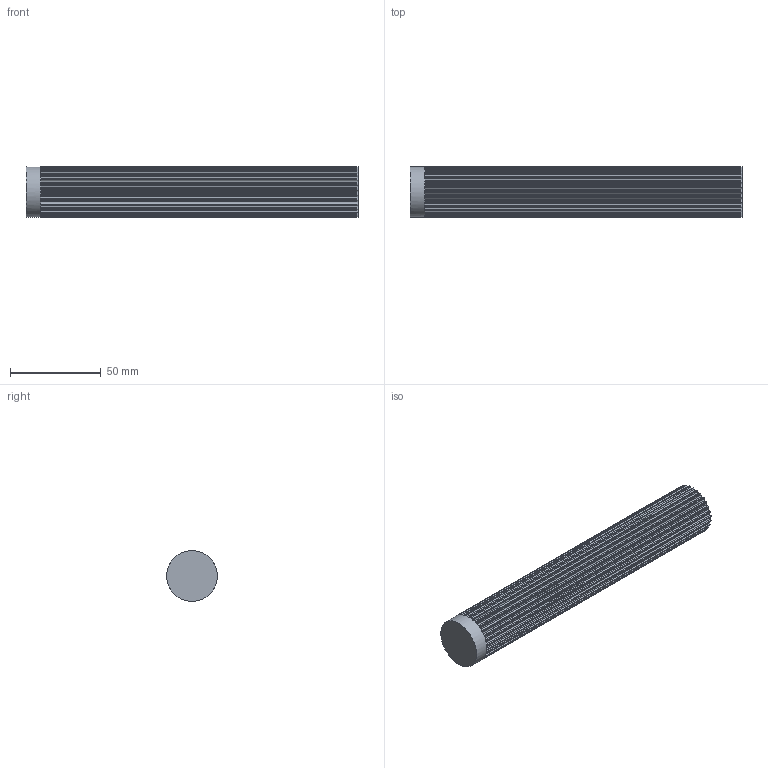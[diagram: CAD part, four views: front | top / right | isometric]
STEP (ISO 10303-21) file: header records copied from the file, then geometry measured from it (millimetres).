
FILE_DESCRIPTION( ( 'STEP AP214' ), '1' );
FILE_NAME( 'C:/Users/StangenbergN/Desktop/Steps Zahnriemenräder/K166_HTD-Zahnwellen/17093000.stp', '2019-06-06T09:34:30', ( '' ), ( '' ), ' ', 'PARTsolutions', ' ' );
FILE_SCHEMA( ( 'AUTOMOTIVE_DESIGN { 1 0 10303 214 1 1 1 1 }' ) );
Length unit declared in the file: millimetre
Products named in the file (1): _17093000
Bounding box: 183 x 27.89 x 27.89 mm (x, y, z)
Volume: 100665.2 mm3; surface area: 22799.9 mm2
Topology: 1 solids, 1 shells, 243 faces, 723 edges, 482 vertices
Faces by surface type: plane 122, cylinder 121
Full cylindrical faces by diameter (mm): 27.89 x1
Entity records: 10224 total; most frequent: DIRECTION 1510, CARTESIAN_POINT 1446, ORIENTED_EDGE 1442, EDGE_CURVE 721, AXIS2_PLACEMENT_3D 545, VERTEX_POINT 481, LINE 420, VECTOR 420
